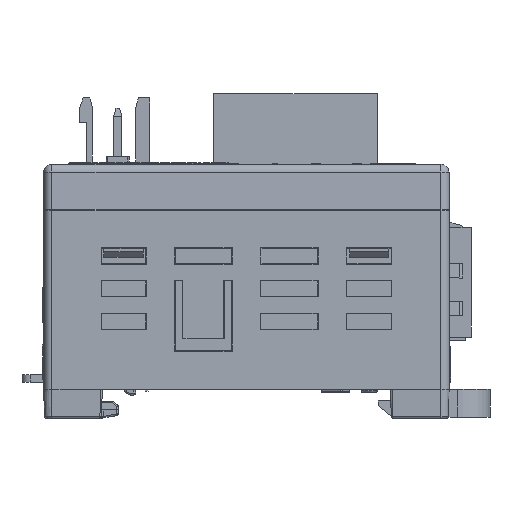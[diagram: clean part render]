
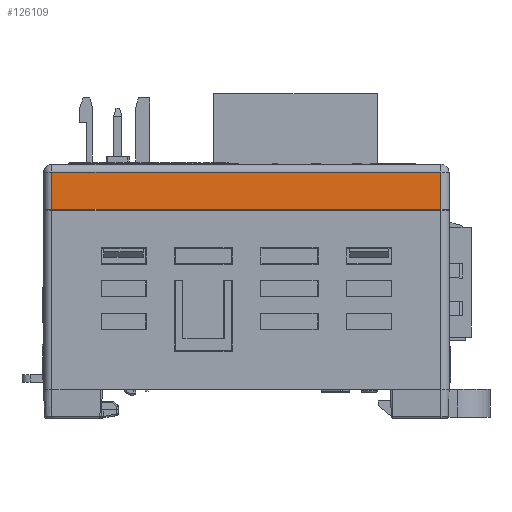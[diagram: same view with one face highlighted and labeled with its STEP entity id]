
A CAD part, left-side view. The second image highlights one B-rep face of the part: STEP entity #126109.
In plain terms, the highlighted planar face has unit normal (-0.999, 0, 0.035).
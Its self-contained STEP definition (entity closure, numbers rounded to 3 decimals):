
#777=CARTESIAN_POINT('',(-29.75,-23.75,25.5));
#918=DIRECTION('',(0.,-1.,0.));
#919=VECTOR('',#918,47.5);
#920=CARTESIAN_POINT('',(-29.592,23.75,30.035));
#921=LINE('',#920,#919);
#937=DIRECTION('',(-0.035,0.,-0.999));
#938=VECTOR('',#937,4.538);
#939=CARTESIAN_POINT('',(-29.592,-23.75,30.035));
#940=LINE('',#939,#938);
#34484=DIRECTION('',(0.035,0.,0.999));
#34485=VECTOR('',#34484,4.538);
#34486=CARTESIAN_POINT('',(-29.75,23.75,
25.5));
#34487=LINE('',#34486,#34485);
#34488=DIRECTION('',(0.,-1.,0.));
#34489=VECTOR('',#34488,47.5);
#34490=CARTESIAN_POINT('',(-29.75,23.75,
25.5));
#34491=LINE('',#34490,#34489);
#45608=VERTEX_POINT('',#777);
#45609=CARTESIAN_POINT('',(-29.75,23.75,
25.5));
#45610=VERTEX_POINT('',#45609);
#45657=CARTESIAN_POINT('',(-29.592,-23.75,
30.035));
#45658=VERTEX_POINT('',#45657);
#45659=CARTESIAN_POINT('',(-29.592,23.75,30.035));
#45660=VERTEX_POINT('',#45659);
#126098=CARTESIAN_POINT('',(-29.671,0.,27.767));
#126099=DIRECTION('',(0.999,0.,-0.035));
#126100=DIRECTION('',(0.,1.,0.));
#126101=AXIS2_PLACEMENT_3D('',#126098,#126099,#126100);
#126102=PLANE('',#126101);
#126103=ORIENTED_EDGE('',*,*,#58538,.T.);
#126104=ORIENTED_EDGE('',*,*,#58580,.T.);
#126105=ORIENTED_EDGE('',*,*,#58205,.F.);
#126106=ORIENTED_EDGE('',*,*,#126084,.T.);
#126107=EDGE_LOOP('',(#126103,#126104,#126105,#126106));
#126108=FACE_OUTER_BOUND('',#126107,.F.);
#126109=ADVANCED_FACE('',(#126108),#126102,.F.);
#58205=EDGE_CURVE('',#45610,#45608,#34491,.T.);
#58538=EDGE_CURVE('',#45660,#45658,#921,.T.);
#58580=EDGE_CURVE('',#45658,#45608,#940,.T.);
#126084=EDGE_CURVE('',#45610,#45660,#34487,.T.);
